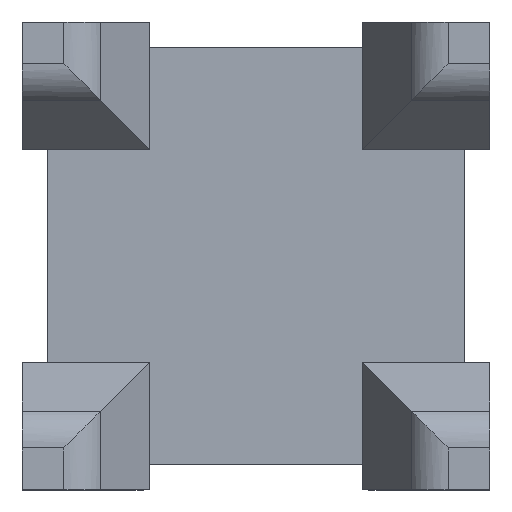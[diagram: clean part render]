
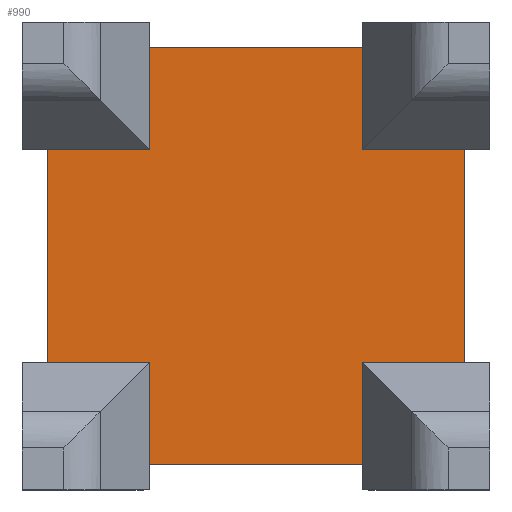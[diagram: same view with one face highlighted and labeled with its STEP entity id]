
A CAD part, top view. The second image highlights one B-rep face of the part: STEP entity #990.
In plain terms, the highlighted planar face has unit normal (0, 0, 1).
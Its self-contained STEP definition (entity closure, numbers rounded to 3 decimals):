
#9 = VECTOR ( 'NONE', #981, 1000. ) ;
#41 = CARTESIAN_POINT ( 'NONE',  ( -11., 5., 6. ) ) ;
#61 = EDGE_CURVE ( 'NONE', #1161, #327, #2011, .T. ) ;
#81 = EDGE_CURVE ( 'NONE', #1892, #863, #238, .T. ) ;
#83 = DIRECTION ( 'NONE',  ( -1., 0., 0. ) ) ;
#92 = VECTOR ( 'NONE', #228, 1000. ) ;
#123 = LINE ( 'NONE', #417, #614 ) ;
#173 = LINE ( 'NONE', #1315, #9 ) ;
#184 = VERTEX_POINT ( 'NONE', #1959 ) ;
#213 = EDGE_CURVE ( 'NONE', #491, #1431, #890, .T. ) ;
#228 = DIRECTION ( 'NONE',  ( -1., 0., 0. ) ) ;
#229 = CARTESIAN_POINT ( 'NONE',  ( 9.8, 5., 6. ) ) ;
#231 = EDGE_CURVE ( 'NONE', #1563, #1206, #969, .T. ) ;
#238 = LINE ( 'NONE', #1183, #92 ) ;
#271 = FACE_OUTER_BOUND ( 'NONE', #1689, .T. ) ;
#296 = CARTESIAN_POINT ( 'NONE',  ( 5., -5., 6. ) ) ;
#320 = CARTESIAN_POINT ( 'NONE',  ( 9.8, 0., 6. ) ) ;
#321 = ORIENTED_EDGE ( 'NONE', *, *, #231, .T. ) ;
#325 = ORIENTED_EDGE ( 'NONE', *, *, #61, .T. ) ;
#327 = VERTEX_POINT ( 'NONE', #1001 ) ;
#335 = EDGE_CURVE ( 'NONE', #1756, #1563, #795, .T. ) ;
#345 = ORIENTED_EDGE ( 'NONE', *, *, #1513, .T. ) ;
#382 = DIRECTION ( 'NONE',  ( -1., 0., 0. ) ) ;
#409 = EDGE_CURVE ( 'NONE', #1431, #184, #410, .T. ) ;
#410 = LINE ( 'NONE', #554, #1860 ) ;
#417 = CARTESIAN_POINT ( 'NONE',  ( -11., -5., 6. ) ) ;
#458 = LINE ( 'NONE', #1733, #716 ) ;
#462 = VECTOR ( 'NONE', #1278, 1000. ) ;
#479 = VECTOR ( 'NONE', #1504, 1000. ) ;
#491 = VERTEX_POINT ( 'NONE', #1330 ) ;
#511 = CARTESIAN_POINT ( 'NONE',  ( -5., 9.8, 6. ) ) ;
#526 = LINE ( 'NONE', #41, #835 ) ;
#532 = DIRECTION ( 'NONE',  ( 0., -1., 0. ) ) ;
#554 = CARTESIAN_POINT ( 'NONE',  ( -5., -12., 6. ) ) ;
#570 = CARTESIAN_POINT ( 'NONE',  ( 0., 0., 6. ) ) ;
#614 = VECTOR ( 'NONE', #898, 1000. ) ;
#638 = EDGE_CURVE ( 'NONE', #1790, #184, #123, .T. ) ;
#684 = CARTESIAN_POINT ( 'NONE',  ( 9.8, -5., 6. ) ) ;
#703 = LINE ( 'NONE', #1971, #479 ) ;
#716 = VECTOR ( 'NONE', #1280, 1000. ) ;
#740 = EDGE_CURVE ( 'NONE', #1756, #491, #1089, .T. ) ;
#743 = ORIENTED_EDGE ( 'NONE', *, *, #409, .F. ) ;
#774 = EDGE_CURVE ( 'NONE', #1161, #863, #703, .T. ) ;
#795 = LINE ( 'NONE', #806, #1601 ) ;
#806 = CARTESIAN_POINT ( 'NONE',  ( -11., -5., 6. ) ) ;
#835 = VECTOR ( 'NONE', #1334, 1000. ) ;
#863 = VERTEX_POINT ( 'NONE', #511 ) ;
#890 = LINE ( 'NONE', #1525, #2070 ) ;
#898 = DIRECTION ( 'NONE',  ( 1., 0., 0. ) ) ;
#914 = VECTOR ( 'NONE', #532, 1000. ) ;
#919 = PLANE ( 'NONE',  #1936 ) ;
#937 = VECTOR ( 'NONE', #382, 1000. ) ;
#969 = LINE ( 'NONE', #320, #462 ) ;
#981 = DIRECTION ( 'NONE',  ( 0., -1., 0. ) ) ;
#984 = ORIENTED_EDGE ( 'NONE', *, *, #740, .F. ) ;
#990 = ADVANCED_FACE ( 'NONE', ( #271 ), #919, .T. ) ;
#1001 = CARTESIAN_POINT ( 'NONE',  ( -9.8, 5., 6. ) ) ;
#1022 = DIRECTION ( 'NONE',  ( 0., 1., 0. ) ) ;
#1048 = ORIENTED_EDGE ( 'NONE', *, *, #1488, .F. ) ;
#1089 = LINE ( 'NONE', #1719, #914 ) ;
#1111 = ORIENTED_EDGE ( 'NONE', *, *, #81, .T. ) ;
#1114 = VERTEX_POINT ( 'NONE', #1610 ) ;
#1161 = VERTEX_POINT ( 'NONE', #1481 ) ;
#1183 = CARTESIAN_POINT ( 'NONE',  ( 0., 9.8, 6. ) ) ;
#1206 = VERTEX_POINT ( 'NONE', #229 ) ;
#1211 = DIRECTION ( 'NONE',  ( 1., 0., 0. ) ) ;
#1255 = CARTESIAN_POINT ( 'NONE',  ( -9.8, -5., 6. ) ) ;
#1261 = ORIENTED_EDGE ( 'NONE', *, *, #638, .T. ) ;
#1278 = DIRECTION ( 'NONE',  ( 0., 1., 0. ) ) ;
#1280 = DIRECTION ( 'NONE',  ( 0., -1., 0. ) ) ;
#1315 = CARTESIAN_POINT ( 'NONE',  ( 5., -12., 6. ) ) ;
#1330 = CARTESIAN_POINT ( 'NONE',  ( 5., -9.8, 6. ) ) ;
#1334 = DIRECTION ( 'NONE',  ( -1., 0., 0. ) ) ;
#1358 = EDGE_CURVE ( 'NONE', #327, #1790, #458, .T. ) ;
#1407 = CARTESIAN_POINT ( 'NONE',  ( -5., -9.8, 6. ) ) ;
#1431 = VERTEX_POINT ( 'NONE', #1407 ) ;
#1438 = DIRECTION ( 'NONE',  ( 1., 0., 0. ) ) ;
#1481 = CARTESIAN_POINT ( 'NONE',  ( -5., 5., 6. ) ) ;
#1488 = EDGE_CURVE ( 'NONE', #1892, #1114, #173, .T. ) ;
#1504 = DIRECTION ( 'NONE',  ( 0., 1., 0. ) ) ;
#1513 = EDGE_CURVE ( 'NONE', #1206, #1114, #526, .T. ) ;
#1525 = CARTESIAN_POINT ( 'NONE',  ( 0., -9.8, 6. ) ) ;
#1544 = ORIENTED_EDGE ( 'NONE', *, *, #213, .F. ) ;
#1563 = VERTEX_POINT ( 'NONE', #684 ) ;
#1601 = VECTOR ( 'NONE', #1438, 1000. ) ;
#1607 = ORIENTED_EDGE ( 'NONE', *, *, #1358, .T. ) ;
#1610 = CARTESIAN_POINT ( 'NONE',  ( 5., 5., 6. ) ) ;
#1689 = EDGE_LOOP ( 'NONE', ( #1607, #1261, #743, #1544, #984, #1906, #321, #345, #1048, #1111, #1755, #325 ) ) ;
#1719 = CARTESIAN_POINT ( 'NONE',  ( 5., -12., 6. ) ) ;
#1733 = CARTESIAN_POINT ( 'NONE',  ( -9.8, 0., 6. ) ) ;
#1755 = ORIENTED_EDGE ( 'NONE', *, *, #774, .F. ) ;
#1756 = VERTEX_POINT ( 'NONE', #296 ) ;
#1790 = VERTEX_POINT ( 'NONE', #1255 ) ;
#1860 = VECTOR ( 'NONE', #1022, 1000. ) ;
#1892 = VERTEX_POINT ( 'NONE', #1953 ) ;
#1906 = ORIENTED_EDGE ( 'NONE', *, *, #335, .T. ) ;
#1936 = AXIS2_PLACEMENT_3D ( 'NONE', #570, #2024, #1211 ) ;
#1953 = CARTESIAN_POINT ( 'NONE',  ( 5., 9.8, 6. ) ) ;
#1959 = CARTESIAN_POINT ( 'NONE',  ( -5., -5., 6. ) ) ;
#1971 = CARTESIAN_POINT ( 'NONE',  ( -5., -12., 6. ) ) ;
#1976 = CARTESIAN_POINT ( 'NONE',  ( -11., 5., 6. ) ) ;
#2011 = LINE ( 'NONE', #1976, #937 ) ;
#2024 = DIRECTION ( 'NONE',  ( 0., 0., 1. ) ) ;
#2070 = VECTOR ( 'NONE', #83, 1000. ) ;
